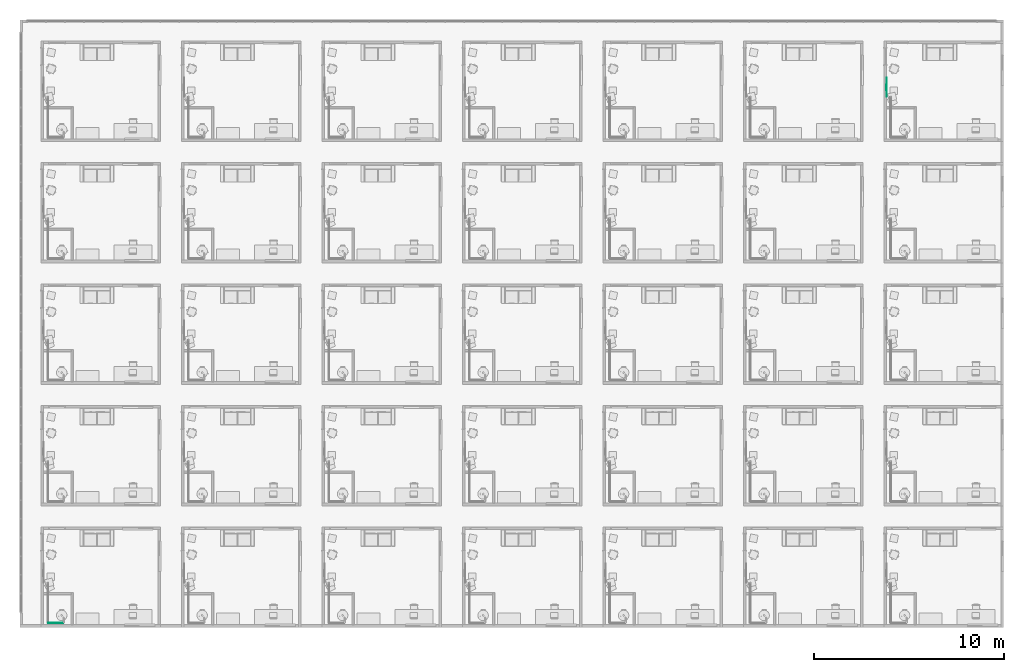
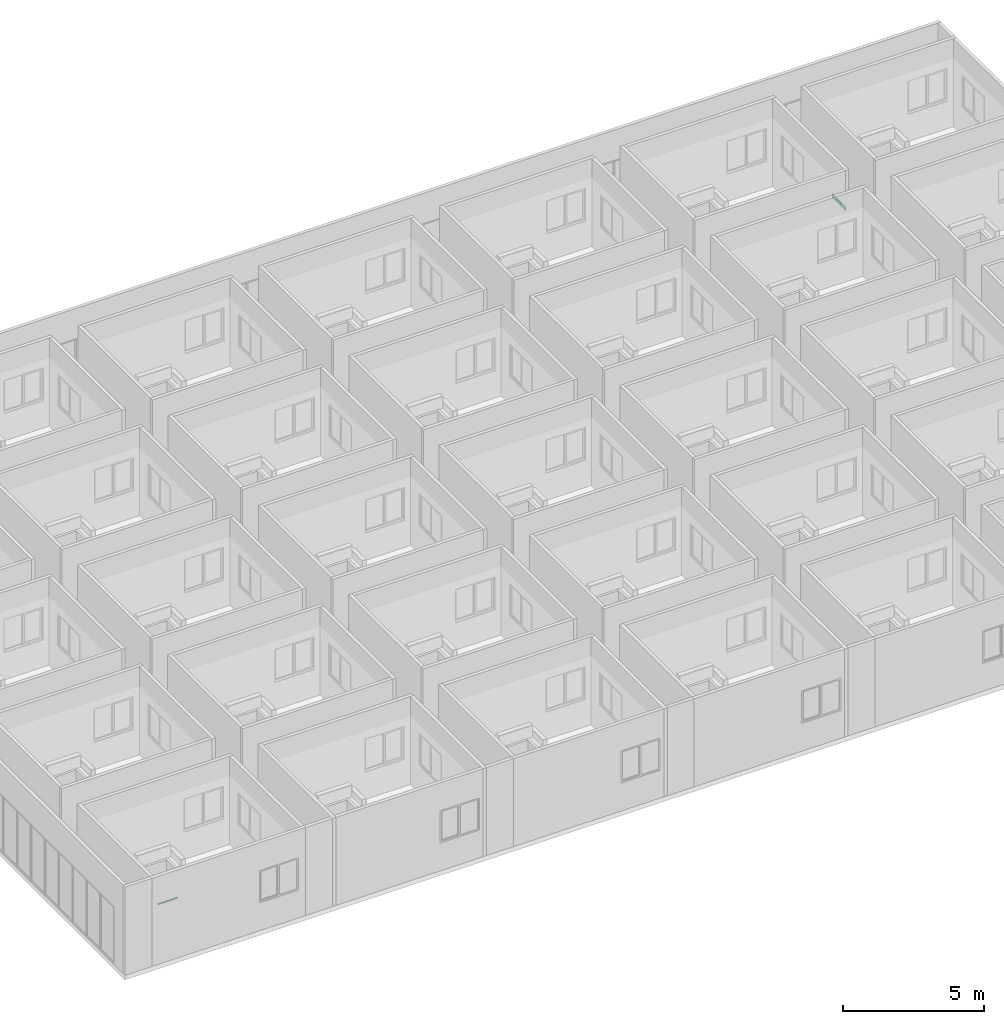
# One storey, part 42 of 72: 1 air terminal, 1 pipe segment.
"""IFC4 building model written with IfcOpenShell, lengths in centimetres."""

import ifcopenshell
import ifcopenshell.guid

model = None  # the IFC model being written
_history = None  # IfcOwnerHistory: only IFC2X3 demands one
_inside = {}  # id of a spatial element -> (the spatial element, [elements in it])
_under = {}  # id of a project, library or spatial element -> (it, [spatial elements below it])
_declared = {}  # id of a project -> (the project, [libraries it declares])
_typed = {}  # id of a type object -> (the type object, [elements of that type])
_made_of = {}  # id of a material, layer set ... -> (it, [elements and type objects made of it])


def new_model(schema):
    """Start an empty IFC model of exactly this schema.

    Asked for "IFC4X3", IfcOpenShell would pick the latest addendum, in which some entities
    have other attributes; the version numbers below select the first issue.
    IFC2X3 requires an IfcOwnerHistory on every rooted entity: one is made here for all.
    """
    global model, _history
    if schema == "IFC4X3":
        model = ifcopenshell.file(schema_version=(4, 3, 0, 0))
    else:
        model = ifcopenshell.file(schema=schema)
    _inside.clear()
    _under.clear()
    _declared.clear()
    _typed.clear()
    _made_of.clear()
    _history = None
    if model.schema == "IFC2X3":
        org = make("IfcOrganization", Name="unknown")
        user = make(
            "IfcPersonAndOrganization",
            ThePerson=make("IfcPerson", FamilyName="unknown"),
            TheOrganization=org,
        )
        app = make(
            "IfcApplication",
            ApplicationDeveloper=org,
            Version="unknown",
            ApplicationFullName="unknown",
            ApplicationIdentifier="unknown",
        )
        _history = make(
            "IfcOwnerHistory",
            OwningUser=user,
            OwningApplication=app,
            ChangeAction="ADDED",
            CreationDate=0,
        )
    return model


def make(cls, **values):
    """One entity of the class cls with the attributes given. An attribute that is None is left unset."""
    return model.create_entity(
        cls, **{name: value for name, value in values.items() if value is not None}
    )


def entity(cls, *values):
    """Any entity or typed value of the class cls, its attributes in the order of the schema. None: left unset."""
    e = model.create_entity(cls)
    for i, value in enumerate(values):
        if value is not None:
            e[i] = value
    return e


def rooted(cls, **values):
    """An entity with a GlobalId (a new one), such as an element, a storey or a relation."""
    return make(cls, GlobalId=ifcopenshell.guid.new(), OwnerHistory=_history, **values)


def si_unit(unit_type, name, prefix=None):
    """IfcSIUnit, for example si_unit("LENGTHUNIT", "METRE", prefix="MILLI")."""
    return make("IfcSIUnit", UnitType=unit_type, Prefix=prefix, Name=name)


def converted_unit(unit_type, name, factor, base, dimensions=None, offset=None):
    """IfcConversionBasedUnit, such as the inch: factor (a typed value) times the base unit."""
    return make(
        "IfcConversionBasedUnit"
        if offset is None
        else "IfcConversionBasedUnitWithOffset",
        ConversionOffset=offset,
        Dimensions=None
        if dimensions is None
        else entity("IfcDimensionalExponents", *dimensions),
        UnitType=unit_type,
        Name=name,
        ConversionFactor=make(
            "IfcMeasureWithUnit", ValueComponent=factor, UnitComponent=base
        ),
    )


def derived_unit(unit_type, elements):
    """IfcDerivedUnit: a product of units, each with its exponent."""
    return make(
        "IfcDerivedUnit",
        Elements=[
            make("IfcDerivedUnitElement", Unit=unit, Exponent=power)
            for unit, power in elements
        ],
        UnitType=unit_type,
    )


def assignment(units):
    """IfcUnitAssignment: the units of a project."""
    return None if units is None else make("IfcUnitAssignment", Units=units)


def point(xyz):
    """IfcCartesianPoint."""
    return None if xyz is None else make("IfcCartesianPoint", Coordinates=xyz)


def direction(xyz):
    """IfcDirection."""
    return None if xyz is None else make("IfcDirection", DirectionRatios=xyz)


def frame(location, z_axis=None, x_axis=None):
    """IfcAxis2Placement3D, a coordinate frame: its origin and axes. An axis left out is left unset."""
    return make(
        "IfcAxis2Placement3D",
        Location=point(location),
        Axis=direction(z_axis),
        RefDirection=direction(x_axis),
    )


def origin():
    """The frame at (0, 0, 0) with its axes left unset."""
    return frame((0.0, 0.0, 0.0))


def place(relative_to, where):
    """IfcLocalPlacement: puts the frame where relative to a parent placement (None: the world)."""
    return make(
        "IfcLocalPlacement", PlacementRelTo=relative_to, RelativePlacement=where
    )


def context(
    kind, dimensions, precision=None, world=None, true_north=None, identifier=None
):
    """IfcGeometricRepresentationContext, for example the 3D "Model" context."""
    return make(
        "IfcGeometricRepresentationContext",
        ContextIdentifier=identifier,
        ContextType=kind,
        CoordinateSpaceDimension=dimensions,
        Precision=precision,
        WorldCoordinateSystem=world,
        TrueNorth=true_north,
    )


def subcontext(parent, identifier, kind, view, scale=None):
    """IfcGeometricRepresentationSubContext, for example "Body" below "Model"."""
    return make(
        "IfcGeometricRepresentationSubContext",
        ContextIdentifier=identifier,
        ContextType=kind,
        ParentContext=parent,
        TargetScale=scale,
        TargetView=view,
    )


def project(units=None, contexts=None):
    """IfcProject with its units and contexts."""
    return rooted(
        "IfcProject",
        Name="project",
        RepresentationContexts=contexts,
        UnitsInContext=assignment(units),
    )


def spatial(cls, under=None, at=None, **own):
    """A site, building, storey or space (cls), placed at a placement, below another one or the project."""
    s = rooted(cls, ObjectPlacement=at, **own)
    if under is not None:
        _under.setdefault(under.id(), (under, []))[1].append(s)
    return s


def point_list(points):
    """IfcCartesianPointList2D or 3D."""
    cls = (
        "IfcCartesianPointList2D" if len(points[0]) == 2 else "IfcCartesianPointList3D"
    )
    return make(cls, CoordList=points)


def arc(*indices):
    """IfcArcIndex: an arc through three numbered points of an indexed curve."""
    return model.create_entity("IfcArcIndex", indices)


def indexed_curve(points, segments=None, self_intersect=None):
    """IfcIndexedPolyCurve: lines and arcs through numbered points (the first is 1)."""
    return make(
        "IfcIndexedPolyCurve",
        Points=point_list(points),
        Segments=segments,
        SelfIntersect=self_intersect,
    )


def outline(outer, holes=None, kind="AREA"):
    """IfcArbitraryClosedProfileDef: a profile drawn as a closed curve; with holes, ...WithVoids."""
    if holes is None:
        return make("IfcArbitraryClosedProfileDef", ProfileType=kind, OuterCurve=outer)
    return make(
        "IfcArbitraryProfileDefWithVoids",
        ProfileType=kind,
        OuterCurve=outer,
        InnerCurves=holes,
    )


def extrude(swept, where, along, depth):
    """IfcExtrudedAreaSolid: the profile swept, set in the frame where, extruded along a direction by depth."""
    return make(
        "IfcExtrudedAreaSolid",
        SweptArea=swept,
        Position=where,
        ExtrudedDirection=direction(along),
        Depth=depth,
    )


def shape(context_of_items, identifier, shape_type, items):
    """IfcShapeRepresentation: the items that make up one representation, for example the "Body"."""
    return make(
        "IfcShapeRepresentation",
        ContextOfItems=context_of_items,
        RepresentationIdentifier=identifier,
        RepresentationType=shape_type,
        Items=items,
    )


def source(mapping_origin, context_of_items, identifier, shape_type, items):
    """IfcRepresentationMap: a shape defined once, which mapped items show again and again."""
    return make(
        "IfcRepresentationMap",
        MappingOrigin=mapping_origin,
        MappedRepresentation=shape(context_of_items, identifier, shape_type, items),
    )


def transform(
    local_origin,
    x_axis=None,
    y_axis=None,
    z_axis=None,
    scale=None,
    scale2=None,
    scale3=None,
    uniform=True,
):
    """IfcCartesianTransformationOperator3D, or its non-uniform kind. x_axis, y_axis, z_axis: its Axis1, 2, 3."""
    if uniform:
        return make(
            "IfcCartesianTransformationOperator3D",
            Axis1=direction(x_axis),
            Axis2=direction(y_axis),
            LocalOrigin=point(local_origin),
            Scale=scale,
            Axis3=direction(z_axis),
        )
    return make(
        "IfcCartesianTransformationOperator3DnonUniform",
        Axis1=direction(x_axis),
        Axis2=direction(y_axis),
        LocalOrigin=point(local_origin),
        Scale=scale,
        Axis3=direction(z_axis),
        Scale2=scale2,
        Scale3=scale3,
    )


def mapped(mapping_source, mapping_target):
    """IfcMappedItem: shows the shape of a source again, moved by a transform."""
    return make(
        "IfcMappedItem", MappingSource=mapping_source, MappingTarget=mapping_target
    )


def material(Name=None, Category=None):
    """IfcMaterial."""
    return make("IfcMaterial", Name=Name, Category=Category)


def constituent(of_material, Name=None, Category=None, fraction=None):
    """IfcMaterialConstituent: one of the materials an element consists of."""
    return make(
        "IfcMaterialConstituent",
        Name=Name,
        Material=of_material,
        Fraction=fraction,
        Category=Category,
    )


def constituent_set(constituents=None, Name=None):
    """IfcMaterialConstituentSet."""
    return make(
        "IfcMaterialConstituentSet", Name=Name, MaterialConstituents=constituents
    )


def made_of(thing, what):
    """Note that an element or type object is made of a material, layer set ...; save() writes the relation."""
    if what is not None:
        _made_of.setdefault(what.id(), (what, []))[1].append(thing)
    return thing


def type_object(cls, material=None, **own):
    """A type object (cls), such as IfcWallType, which elements share."""
    return made_of(rooted(cls, **own), material)


def type_shapes(of_type, sources):
    """Give a type object the sources (RepresentationMaps) that its elements show as mapped items."""
    of_type.RepresentationMaps = sources


def element(
    cls,
    number,
    at=None,
    inside=None,
    cuts=None,
    type_object=None,
    material=None,
    context=None,
    identifier="Body",
    shape_type=None,
    held_by="IfcProductDefinitionShape",
    body=None,
    shapes=None,
    **own,
):
    """One element of the class cls, such as IfcWall. Its Tag is "e" and its number.

    at: its placement. inside: the storey or other place that contains it. cuts: it is an
    opening in that element (IfcRelVoidsElement). A single representation is given by context,
    identifier, shape_type and body (its items); several are given by shapes. held_by: the class
    of the entity that holds the representations. save() writes the other relations.
    """
    e = rooted(cls, Tag="e%d" % number, ObjectPlacement=at, **own)
    if body is not None:
        shapes = [shape(context, identifier, shape_type, body)]
    if shapes is not None:
        e.Representation = make(held_by, Representations=shapes)
    if inside is not None:
        _inside.setdefault(inside.id(), (inside, []))[1].append(e)
    if cuts is not None:
        rooted(
            "IfcRelVoidsElement", RelatingBuildingElement=cuts, RelatedOpeningElement=e
        )
    if type_object is not None:
        _typed.setdefault(type_object.id(), (type_object, []))[1].append(e)
    return made_of(e, material)


def aggregate(whole, parts):
    """IfcRelAggregates: a whole, such as a stair, and the parts it consists of."""
    return rooted("IfcRelAggregates", RelatingObject=whole, RelatedObjects=parts)


def save(model, path):
    """Write the relations noted so far, then the file.

    IfcRelAggregates (storeys below a building ...), IfcRelContainedInSpatialStructure (elements
    in a storey), IfcRelDefinesByType, IfcRelAssociatesMaterial and IfcRelDeclares: one each for
    every whole, place, type object, material and project.
    """
    for whole, parts in _under.values():
        aggregate(whole, parts)
    for where, things in _inside.values():
        rooted(
            "IfcRelContainedInSpatialStructure",
            RelatedElements=things,
            RelatingStructure=where,
        )
    for kind, things in _typed.values():
        rooted("IfcRelDefinesByType", RelatedObjects=things, RelatingType=kind)
    for what, things in _made_of.values():
        rooted("IfcRelAssociatesMaterial", RelatedObjects=things, RelatingMaterial=what)
    for by, libraries in _declared.values():
        rooted("IfcRelDeclares", RelatingContext=by, RelatedDefinitions=libraries)
    model.write(path)


model = new_model("IFC4")

# Units and contexts
model_context = context("Model", 3, precision=0.001, world=origin(), true_north=direction((6.123233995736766e-17, 1.0)))
body_context = subcontext(model_context, "Body", "Model", "MODEL_VIEW")
ifc_project = project(units=[si_unit("LENGTHUNIT", "METRE", prefix="CENTI"), si_unit("AREAUNIT", "SQUARE_METRE"), si_unit("VOLUMEUNIT", "CUBIC_METRE"), derived_unit("THERMALTRANSMITTANCEUNIT", [(si_unit("MASSUNIT", "GRAM", prefix="KILO"), 1), (si_unit("THERMODYNAMICTEMPERATUREUNIT", "KELVIN"), -1), (si_unit("TIMEUNIT", "SECOND"), -3)]), converted_unit("PLANEANGLEUNIT", "DEGREE", entity("IfcPlaneAngleMeasure", 0.017453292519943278), si_unit("PLANEANGLEUNIT", "RADIAN"), dimensions=[0, 0, 0, 0, 0, 0, 0]), derived_unit("MASSDENSITYUNIT", [(si_unit("MASSUNIT", "GRAM", prefix="KILO"), 1), (si_unit("LENGTHUNIT", "METRE"), -3)]), derived_unit("VAPORPERMEABILITYUNIT", [(si_unit("LENGTHUNIT", "METRE"), -1), (si_unit("TIMEUNIT", "SECOND"), 1)]), derived_unit("USERDEFINED", [(si_unit("MASSUNIT", "GRAM", prefix="KILO"), 1), (si_unit("TIMEUNIT", "SECOND"), -3), (si_unit("LENGTHUNIT", "METRE"), 3), (si_unit("ELECTRICCURRENTUNIT", "AMPERE"), -2)]), derived_unit("SPECIFICHEATCAPACITYUNIT", [(si_unit("THERMODYNAMICTEMPERATUREUNIT", "KELVIN"), -1), (si_unit("LENGTHUNIT", "METRE"), 2), (si_unit("TIMEUNIT", "SECOND"), -2)]), derived_unit("THERMALCONDUCTANCEUNIT", [(si_unit("MASSUNIT", "GRAM", prefix="KILO"), 1), (si_unit("THERMODYNAMICTEMPERATUREUNIT", "KELVIN"), -1), (si_unit("TIMEUNIT", "SECOND"), -3), (si_unit("LENGTHUNIT", "METRE"), 1)]), si_unit("PRESSUREUNIT", "PASCAL"), derived_unit("MODULUSOFELASTICITYUNIT", [(si_unit("MASSUNIT", "GRAM", prefix="KILO"), 1), (si_unit("LENGTHUNIT", "METRE"), -1), (si_unit("TIMEUNIT", "SECOND"), -2)]), derived_unit("THERMALEXPANSIONCOEFFICIENTUNIT", [(si_unit("THERMODYNAMICTEMPERATUREUNIT", "KELVIN"), -1)])], contexts=[model_context])

# Site, building, storey, space
site_placement = place(None, origin())
site = spatial("IfcSite", under=ifc_project, at=site_placement, Name="Default", CompositionType="ELEMENT")
building_placement = place(site_placement, origin())
building = spatial("IfcBuilding", under=site, at=building_placement, Name="IDS Escape Game Building", CompositionType="ELEMENT")
storey_placement = place(building_placement, frame((0.0, 0.0, 800.0)))
storey = spatial("IfcBuildingStorey", under=building, at=storey_placement, Name="02_Second Floor", CompositionType="ELEMENT", Elevation=800.0)
space_placement = place(storey_placement, origin())
space = spatial("IfcSpace", under=storey, at=space_placement, Name="105", CompositionType="ELEMENT", PredefinedType="NOTDEFINED")

# Air terminal
ifc_material_1 = material(Name="TB_LVC_referentievlak_00_gen_BERSnl", Category="BE Default")
ifc_constituent_1 = constituent(ifc_material_1, Name="TB_LVC_referentievlak_00_gen_BERSnl", Category="BE Default", fraction=0.00014157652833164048)
ifc_material_2 = material(Name="ARC_FME.h2_staal_00_gen_BERSnl", Category="h - metaal")
ifc_constituent_2 = constituent(ifc_material_2, Name="ARC_FME.h2_staal_00_gen_BERSnl", Category="h - metaal", fraction=0.9998584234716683)
ifc_constituent_set_1 = constituent_set(constituents=[ifc_constituent_1, ifc_constituent_2])
ifc_constituent_3 = constituent(ifc_material_1, Name="BE Referentievlak", Category="BE Default", fraction=0.00014157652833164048)
ifc_constituent_4 = constituent(ifc_material_2, Name="Terminals", Category="h - metaal", fraction=0.9998584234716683)
ifc_constituent_set_2 = constituent_set(constituents=[ifc_constituent_3, ifc_constituent_4])
air_terminal_type = type_object("IfcAirTerminalType", Name="TB_57_AIR_FB_aanzuigrooster - 1 rechthoekige aansluiting - calculated flow_gen_BERSnl:Air Terminal - Exhaust", PredefinedType="GRILLE", material=ifc_constituent_set_2)
shared_shape = source(origin(), body_context, "Body", "SweptSolid", [
    extrude(outline(indexed_curve([(-0.5, -2.0290176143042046e-15), (6.8507733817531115e-16, -0.5000000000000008), (0.5, 2.0290176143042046e-15), (-5.361679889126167e-16, 0.49999999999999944)], segments=[arc(1, 2, 3), arc(3, 4, 1)], self_intersect=False)), frame((0.0, 0.0, 0.0), z_axis=(1.7453292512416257e-05, 0.0, 1.0), x_axis=(0.0, 1.0, 0.0)), (0.0, 0.0, 1.0), 0.09999999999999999),
    extrude(outline(indexed_curve([(-14.900000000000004, -4.9), (14.900000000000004, -4.9), (14.900000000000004, 4.9), (-14.900000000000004, 4.9), (-14.900000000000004, -4.9)], self_intersect=False)), frame((-4.886921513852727e-05, 0.0, -2.7999999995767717)), (0.0, 0.0, 1.0), 2.7999999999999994),
    extrude(outline(indexed_curve([(-50.0, -10.0), (50.0, -10.0), (50.0, 10.0), (-50.0, 10.0), (-50.0, -10.0)], self_intersect=False)), frame((0.0, 0.0, 0.0), z_axis=(0.0, 0.0, 1.0), x_axis=(-1.0, 0.0, 0.0)), (0.0, 0.0, 1.0), 0.6999999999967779),
])
type_shapes(air_terminal_type, [shared_shape])
air_terminal_placement = place(space_placement, frame((4435.0, 2835.0, 24.0), z_axis=(1.0, 0.0, 0.0), x_axis=(0.0, 1.0, 0.0)))
element("IfcAirTerminal", 1, at=air_terminal_placement, inside=space, type_object=air_terminal_type, material=ifc_constituent_set_1, Name="TB_57_AIR_FB_aanzuigrooster - 1 rechthoekige aansluiting - calculated flow_gen_BERSnl:Air Terminal - Exhaust", ObjectType="TB_57_AIR_FB_aanzuigrooster - 1 rechthoekige aansluiting - calculated flow_gen_BERSnl:Air Terminal - Exhaust", PredefinedType="GRILLE", context=body_context, shape_type="MappedRepresentation", body=[
    mapped(shared_shape, transform((0.0, 0.0, 0.0), scale=1.0)),
])

# Pipe segment
pipe_segment_type = type_object("IfcPipeSegmentType", Name="Pipe Types:Piping Aluminum", PredefinedType="NOTDEFINED")
pipe_segment_placement = place(storey_placement, origin())
element("IfcPipeSegment", 2, at=pipe_segment_placement, inside=storey, type_object=pipe_segment_type, Name="Pipe Types:Piping Aluminum", ObjectType="Pipe Types:Piping Aluminum", PredefinedType="NOTDEFINED", context=body_context, shape_type="SweptSolid", body=[
    extrude(outline(indexed_curve([(2.412999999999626, -2.165734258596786e-13), (1.7062486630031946, 1.7062486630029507), (3.790034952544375e-13, 2.4130000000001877), (-1.7062486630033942, 1.706248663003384), (-2.4130000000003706, -2.165734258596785e-13), (-1.70624866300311, -1.706248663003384), (3.654676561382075e-13, -2.4129999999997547), (1.7062486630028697, -1.7062486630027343)], segments=[arc(1, 2, 3), arc(3, 4, 5), arc(5, 6, 7), arc(7, 8, 1)], self_intersect=False)), frame((31.14671687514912, 21.264827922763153, 242.0), z_axis=(1.0, 0.0, 0.0), x_axis=(0.0, 1.0, 0.0)), (0.0, 0.0, 1.0), 79.9032831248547),
])

save(model, "model.ifc")
